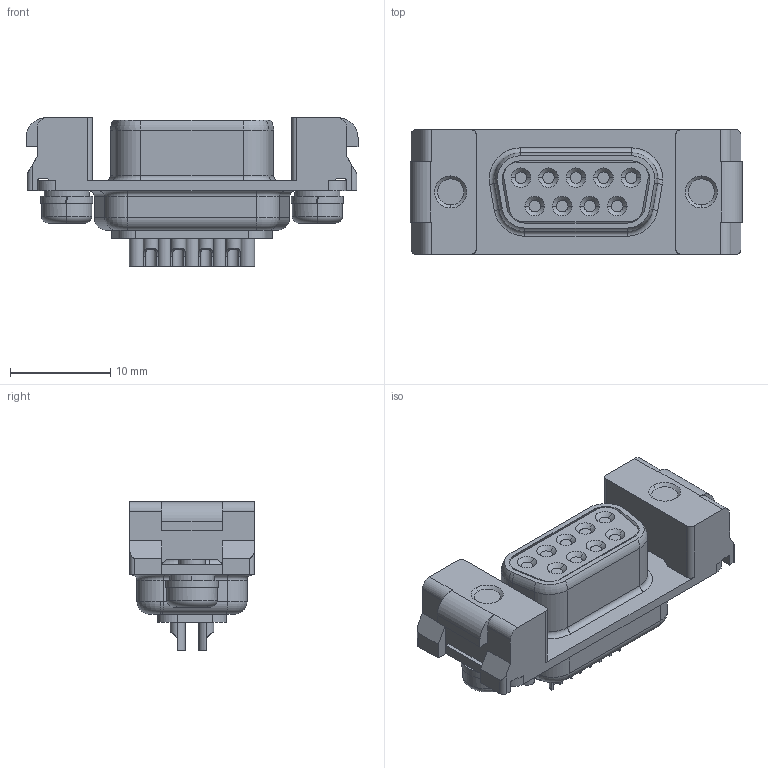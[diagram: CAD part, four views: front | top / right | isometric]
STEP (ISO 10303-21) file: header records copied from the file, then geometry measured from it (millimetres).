
FILE_DESCRIPTION (( 'STEP AP203' ), '1' );
FILE_NAME ('17JE-13090-02(D2A)-CG.STEP', '2021-07-29T07:34:49', ( '' ), ( '' ), 'SwSTEP 2.0', 'SolidWorks 2018', '' );
FILE_SCHEMA (( 'CONFIG_CONTROL_DESIGN' ));
Length unit declared in the file: millimetre
Products named in the file (1): 17JE-13090-02(D2A)-CG
Bounding box: 33.09 x 12.4 x 14.8 mm (x, y, z)
Volume: 2866 mm3; surface area: 3452.7 mm2
Topology: 1 solids, 1 shells, 478 faces, 1238 edges, 756 vertices
Faces by surface type: cylinder 189, plane 180, torus 56, cone 49, bspline 4
Entity records: 15540 total; most frequent: CARTESIAN_POINT 3643, DIRECTION 2595, ORIENTED_EDGE 2440, EDGE_CURVE 1220, AXIS2_PLACEMENT_3D 970, VERTEX_POINT 756, VECTOR 655, LINE 655
